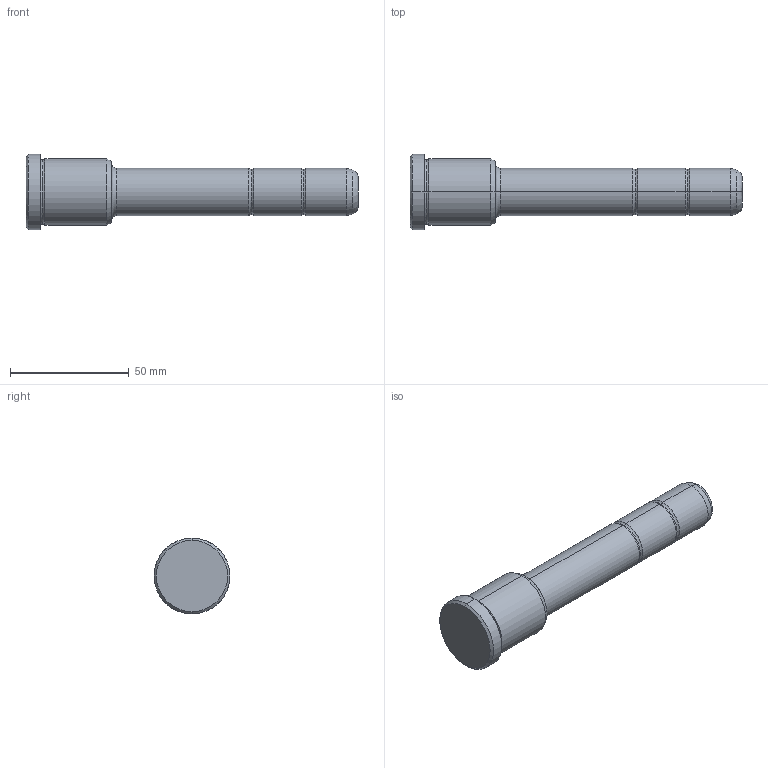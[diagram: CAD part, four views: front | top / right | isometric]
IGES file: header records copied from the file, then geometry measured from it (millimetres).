
Start section: START RECORD GO HERE.
Global section: file name: 351-20X36X140.igs; native system: DASSAULT SYSTEMES CATIA V5 R20 - www.3ds.com; preprocessor: CATIA Version 5 Release 20 ; author: Utente; organization: NB04-ASUS; date: 20210827.135723; units: millimetre
Bounding box: 140 x 32 x 32 mm (x, y, z)
Surface area: 11119.2 mm2 (no closed solid volume)
Topology: 0 solids, 0 shells, 36 faces, 204 edges, 204 vertices
Faces by surface type: revolution 32, plane 4
